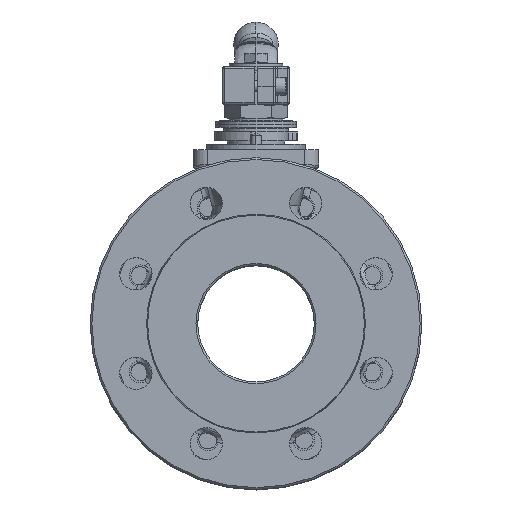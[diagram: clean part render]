
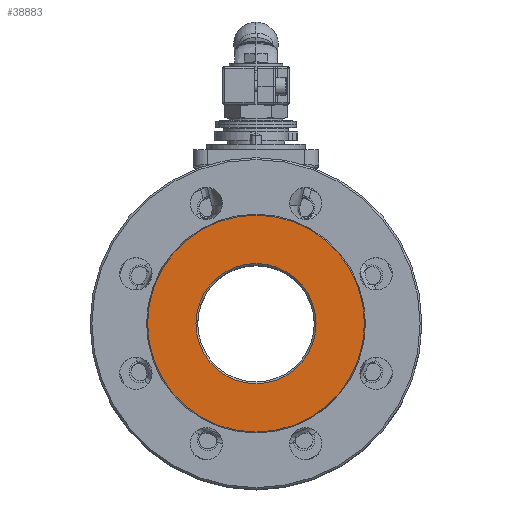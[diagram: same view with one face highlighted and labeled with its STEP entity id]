
A CAD part, top view. The second image highlights one B-rep face of the part: STEP entity #38883.
In plain terms, the highlighted planar face has unit normal (0, 0, 1) as drawn and (0, -1, 0) by its records, which use the part's own axes.
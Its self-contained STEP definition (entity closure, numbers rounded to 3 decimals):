
#1340 = DIRECTION ( 'NONE',  ( 0., 0., -1. ) ) ;
#2581 = AXIS2_PLACEMENT_3D ( 'NONE', #5122, #28828, #47687 ) ;
#3435 = EDGE_LOOP ( 'NONE', ( #38080, #18540 ) ) ;
#3701 = FACE_BOUND ( 'NONE', #3435, .T. ) ;
#3722 = CARTESIAN_POINT ( 'NONE',  ( -60.464, -55.25, -3.75 ) ) ;
#5122 = CARTESIAN_POINT ( 'NONE',  ( 0., -55.25, -3.75 ) ) ;
#7892 = AXIS2_PLACEMENT_3D ( 'NONE', #24376, #32187, #1340 ) ;
#9974 = ORIENTED_EDGE ( 'NONE', *, *, #45281, .F. ) ;
#11958 = DIRECTION ( 'NONE',  ( 0., 1., 0. ) ) ;
#12340 = EDGE_CURVE ( 'NONE', #31326, #38935, #24614, .T. ) ;
#13537 = CARTESIAN_POINT ( 'NONE',  ( 0., -55.25, -3.75 ) ) ;
#14112 = AXIS2_PLACEMENT_3D ( 'NONE', #38585, #11958, #45794 ) ;
#15931 = ORIENTED_EDGE ( 'NONE', *, *, #47357, .F. ) ;
#16347 = FACE_OUTER_BOUND ( 'NONE', #19208, .T. ) ;
#16682 = CARTESIAN_POINT ( 'NONE',  ( 33.5, -55.25, -3.75 ) ) ;
#18540 = ORIENTED_EDGE ( 'NONE', *, *, #12340, .T. ) ;
#19208 = EDGE_LOOP ( 'NONE', ( #9974, #15931 ) ) ;
#21923 = AXIS2_PLACEMENT_3D ( 'NONE', #47027, #39495, #35448 ) ;
#21999 = CIRCLE ( 'NONE', #2581, 60.464 ) ;
#22765 = CIRCLE ( 'NONE', #36338, 33.5 ) ;
#23774 = CARTESIAN_POINT ( 'NONE',  ( -33.5, -55.25, -3.75 ) ) ;
#24308 = VERTEX_POINT ( 'NONE', #33404 ) ;
#24376 = CARTESIAN_POINT ( 'NONE',  ( 0., -55.25, -33.982 ) ) ;
#24614 = CIRCLE ( 'NONE', #14112, 33.5 ) ;
#25111 = DIRECTION ( 'NONE',  ( 1., 0., 0. ) ) ;
#28276 = PLANE ( 'NONE',  #7892 ) ;
#28828 = DIRECTION ( 'NONE',  ( 0., 1., 0. ) ) ;
#31326 = VERTEX_POINT ( 'NONE', #23774 ) ;
#32187 = DIRECTION ( 'NONE',  ( 0., -1., 0. ) ) ;
#33404 = CARTESIAN_POINT ( 'NONE',  ( 60.464, -55.25, -3.75 ) ) ;
#35448 = DIRECTION ( 'NONE',  ( -1., 0., 0. ) ) ;
#36338 = AXIS2_PLACEMENT_3D ( 'NONE', #13537, #40477, #25111 ) ;
#38080 = ORIENTED_EDGE ( 'NONE', *, *, #41780, .T. ) ;
#38150 = VERTEX_POINT ( 'NONE', #3722 ) ;
#38585 = CARTESIAN_POINT ( 'NONE',  ( 0., -55.25, -3.75 ) ) ;
#38883 = ADVANCED_FACE ( 'NONE', ( #3701, #16347 ), #28276, .T. ) ;
#38935 = VERTEX_POINT ( 'NONE', #16682 ) ;
#39495 = DIRECTION ( 'NONE',  ( 0., 1., 0. ) ) ;
#40477 = DIRECTION ( 'NONE',  ( 0., 1., 0. ) ) ;
#41350 = CIRCLE ( 'NONE', #21923, 60.464 ) ;
#41780 = EDGE_CURVE ( 'NONE', #38935, #31326, #22765, .T. ) ;
#45281 = EDGE_CURVE ( 'NONE', #38150, #24308, #41350, .T. ) ;
#45794 = DIRECTION ( 'NONE',  ( 1., 0., 0. ) ) ;
#47027 = CARTESIAN_POINT ( 'NONE',  ( 0., -55.25, -3.75 ) ) ;
#47357 = EDGE_CURVE ( 'NONE', #24308, #38150, #21999, .T. ) ;
#47687 = DIRECTION ( 'NONE',  ( -1., 0., 0. ) ) ;
